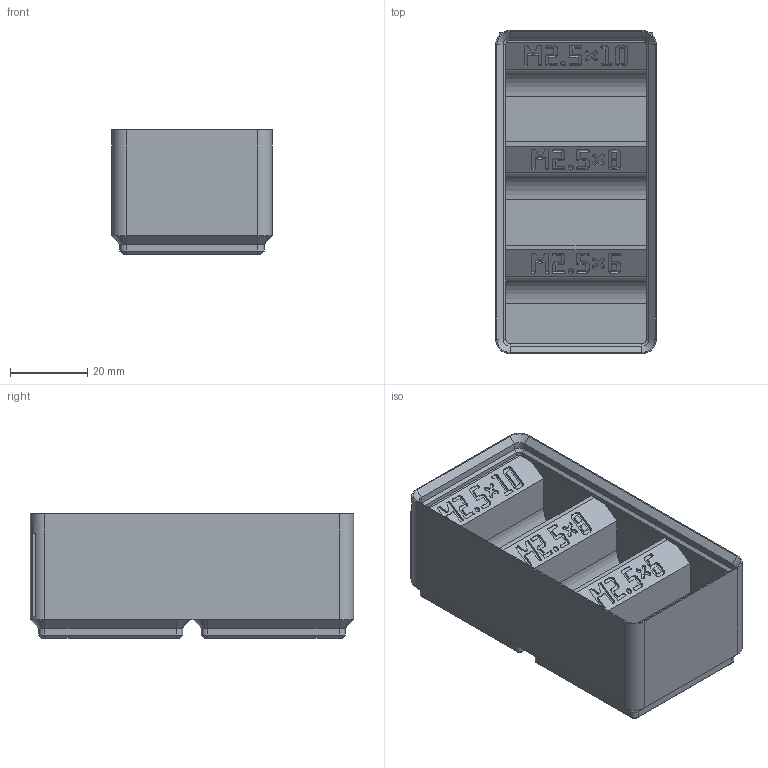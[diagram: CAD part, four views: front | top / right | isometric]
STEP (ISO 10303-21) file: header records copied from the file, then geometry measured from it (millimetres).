
FILE_DESCRIPTION(('Open CASCADE Model'),'2;1');
FILE_NAME('Open CASCADE Shape Model','2026-11-16T17:23:16',('Author'),( 'Open CASCADE'),'Open CASCADE STEP processor 8.0','build123d', 'Unknown');
FILE_SCHEMA(('AUTOMOTIVE_DESIGN { 1 0 10303 214 1 1 1 1 }'));
Products named in the file (1): COMPOUND
Bounding box: 41.5 x 83.5 x 32.1 mm (x, y, z)
Volume: 46076.1 mm3; surface area: 22486.6 mm2
Topology: 1 solids, 1 shells, 1914 faces, 5590 edges, 3706 vertices
Faces by surface type: plane 1861, cone 28, cylinder 25
Entity records: 134444 total; most frequent: CARTESIAN_POINT 22827, DIRECTION 20354, LINE 16336, VECTOR 16336, ORIENTED_EDGE 11180, PCURVE 11180, DEFINITIONAL_REPRESENTATION 11180, EDGE_CURVE 5590
